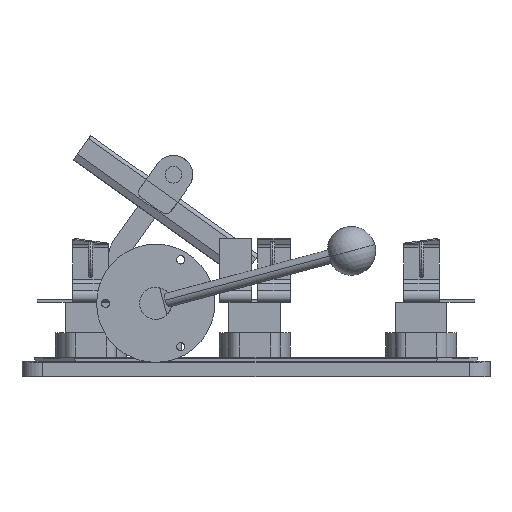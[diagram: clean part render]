
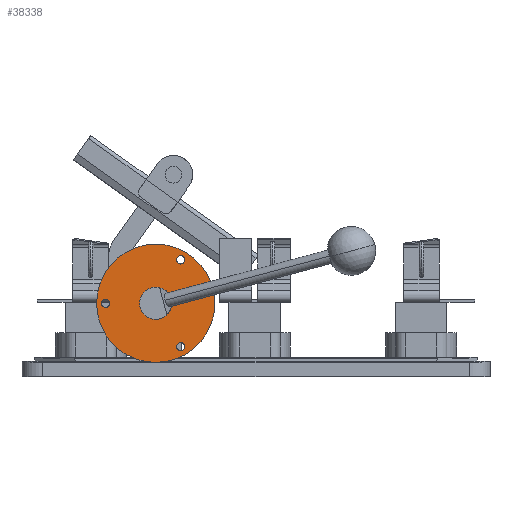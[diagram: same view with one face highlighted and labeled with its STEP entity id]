
A CAD part, left-side view. The second image highlights one B-rep face of the part: STEP entity #38338.
In plain terms, the highlighted planar face has unit normal (-1, 0, 0).
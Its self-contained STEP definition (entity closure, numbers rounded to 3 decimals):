
#15 = DIRECTION ( 'NONE',  ( -1., 0., 0. ) ) ;
#235 = ORIENTED_EDGE ( 'NONE', *, *, #48570, .F. ) ;
#430 = VERTEX_POINT ( 'NONE', #45603 ) ;
#1410 = ORIENTED_EDGE ( 'NONE', *, *, #15008, .F. ) ;
#1528 = DIRECTION ( 'NONE',  ( 0., 0., 1. ) ) ;
#2846 = VERTEX_POINT ( 'NONE', #14081 ) ;
#3075 = DIRECTION ( 'NONE',  ( 1., 0., 0. ) ) ;
#3256 = VERTEX_POINT ( 'NONE', #21446 ) ;
#3258 = CIRCLE ( 'NONE', #24570, 3.25 ) ;
#3695 = AXIS2_PLACEMENT_3D ( 'NONE', #4652, #35455, #24061 ) ;
#4652 = CARTESIAN_POINT ( 'NONE',  ( -199., 39., 42. ) ) ;
#4670 = ORIENTED_EDGE ( 'NONE', *, *, #5096, .T. ) ;
#4988 = CARTESIAN_POINT ( 'NONE',  ( -199., 0., 42. ) ) ;
#5096 = EDGE_CURVE ( 'NONE', #17063, #46205, #7573, .T. ) ;
#7279 = AXIS2_PLACEMENT_3D ( 'NONE', #31989, #36277, #24566 ) ;
#7402 = CARTESIAN_POINT ( 'NONE',  ( -199., 0., 42. ) ) ;
#7573 = CIRCLE ( 'NONE', #30477, 46. ) ;
#9375 = ORIENTED_EDGE ( 'NONE', *, *, #28336, .F. ) ;
#9589 = AXIS2_PLACEMENT_3D ( 'NONE', #7402, #3075, #48371 ) ;
#9854 = CIRCLE ( 'NONE', #43885, 3.25 ) ;
#10783 = CARTESIAN_POINT ( 'NONE',  ( -199., -19.5, 11.475 ) ) ;
#10847 = FACE_BOUND ( 'NONE', #31324, .T. ) ;
#10854 = EDGE_CURVE ( 'NONE', #34654, #11419, #29064, .T. ) ;
#10948 = DIRECTION ( 'NONE',  ( 0., 0., 1. ) ) ;
#11419 = VERTEX_POINT ( 'NONE', #10783 ) ;
#11424 = CARTESIAN_POINT ( 'NONE',  ( -199., 0., 42. ) ) ;
#11636 = ORIENTED_EDGE ( 'NONE', *, *, #27762, .F. ) ;
#11741 = DIRECTION ( 'NONE',  ( 0., 0., 1. ) ) ;
#12599 = EDGE_LOOP ( 'NONE', ( #46723, #41610 ) ) ;
#12731 = EDGE_LOOP ( 'NONE', ( #14140, #45077 ) ) ;
#12764 = DIRECTION ( 'NONE',  ( -1., 0., 0. ) ) ;
#12899 = DIRECTION ( 'NONE',  ( -1., 0., 0. ) ) ;
#13864 = AXIS2_PLACEMENT_3D ( 'NONE', #39193, #12764, #39022 ) ;
#13941 = EDGE_CURVE ( 'NONE', #11419, #34654, #16023, .T. ) ;
#14081 = CARTESIAN_POINT ( 'NONE',  ( -199., -19.5, 72.525 ) ) ;
#14140 = ORIENTED_EDGE ( 'NONE', *, *, #27692, .T. ) ;
#15008 = EDGE_CURVE ( 'NONE', #37784, #28066, #42386, .T. ) ;
#15484 = DIRECTION ( 'NONE',  ( -1., 0., 0. ) ) ;
#16023 = CIRCLE ( 'NONE', #44988, 3.25 ) ;
#16164 = DIRECTION ( 'NONE',  ( 0., 0., 1. ) ) ;
#17063 = VERTEX_POINT ( 'NONE', #47830 ) ;
#17164 = DIRECTION ( 'NONE',  ( -1., 0., 0. ) ) ;
#19639 = FACE_BOUND ( 'NONE', #12599, .T. ) ;
#21446 = CARTESIAN_POINT ( 'NONE',  ( -199., -19.5, 79.025 ) ) ;
#21760 = PLANE ( 'NONE',  #48529 ) ;
#24061 = DIRECTION ( 'NONE',  ( 0., 0., 1. ) ) ;
#24129 = DIRECTION ( 'NONE',  ( 0., 0., 1. ) ) ;
#24566 = DIRECTION ( 'NONE',  ( 0., 0., 1. ) ) ;
#24570 = AXIS2_PLACEMENT_3D ( 'NONE', #45733, #34684, #46052 ) ;
#25024 = CARTESIAN_POINT ( 'NONE',  ( -199., 0., 54.5 ) ) ;
#25835 = CARTESIAN_POINT ( 'NONE',  ( -199., 0., 42. ) ) ;
#26779 = EDGE_CURVE ( 'NONE', #46205, #17063, #34800, .T. ) ;
#27692 = EDGE_CURVE ( 'NONE', #430, #29403, #45254, .T. ) ;
#27762 = EDGE_CURVE ( 'NONE', #3256, #2846, #36423, .T. ) ;
#27769 = DIRECTION ( 'NONE',  ( -1., 0., 0. ) ) ;
#27961 = CIRCLE ( 'NONE', #9589, 12.5 ) ;
#28066 = VERTEX_POINT ( 'NONE', #40066 ) ;
#28336 = EDGE_CURVE ( 'NONE', #28066, #37784, #9854, .T. ) ;
#29064 = CIRCLE ( 'NONE', #13864, 3.25 ) ;
#29087 = FACE_OUTER_BOUND ( 'NONE', #30833, .T. ) ;
#29191 = CARTESIAN_POINT ( 'NONE',  ( -199., -19.5, 4.975 ) ) ;
#29403 = VERTEX_POINT ( 'NONE', #25024 ) ;
#30477 = AXIS2_PLACEMENT_3D ( 'NONE', #25835, #15, #10948 ) ;
#30750 = EDGE_LOOP ( 'NONE', ( #11636, #235 ) ) ;
#30833 = EDGE_LOOP ( 'NONE', ( #47419, #4670 ) ) ;
#31324 = EDGE_LOOP ( 'NONE', ( #9375, #1410 ) ) ;
#31989 = CARTESIAN_POINT ( 'NONE',  ( -199., -19.5, 75.775 ) ) ;
#32857 = CARTESIAN_POINT ( 'NONE',  ( -199., 0., 88. ) ) ;
#33056 = AXIS2_PLACEMENT_3D ( 'NONE', #46720, #27769, #24129 ) ;
#33808 = CARTESIAN_POINT ( 'NONE',  ( -199., 39., 38.75 ) ) ;
#34654 = VERTEX_POINT ( 'NONE', #29191 ) ;
#34684 = DIRECTION ( 'NONE',  ( -1., 0., 0. ) ) ;
#34734 = CARTESIAN_POINT ( 'NONE',  ( -199., -19.5, 8.225 ) ) ;
#34800 = CIRCLE ( 'NONE', #33056, 46. ) ;
#34976 = DIRECTION ( 'NONE',  ( 1., 0., 0. ) ) ;
#35455 = DIRECTION ( 'NONE',  ( -1., 0., 0. ) ) ;
#36277 = DIRECTION ( 'NONE',  ( -1., 0., 0. ) ) ;
#36423 = CIRCLE ( 'NONE', #7279, 3.25 ) ;
#36607 = AXIS2_PLACEMENT_3D ( 'NONE', #4988, #34976, #1528 ) ;
#37784 = VERTEX_POINT ( 'NONE', #33808 ) ;
#38338 = ADVANCED_FACE ( 'NONE', ( #10847, #43185, #19639, #41444, #29087 ), #21760, .T. ) ;
#39022 = DIRECTION ( 'NONE',  ( 0., 0., 1. ) ) ;
#39193 = CARTESIAN_POINT ( 'NONE',  ( -199., -19.5, 8.225 ) ) ;
#39532 = DIRECTION ( 'NONE',  ( 0., 0., 1. ) ) ;
#39698 = CARTESIAN_POINT ( 'NONE',  ( -199., 39., 42. ) ) ;
#40066 = CARTESIAN_POINT ( 'NONE',  ( -199., 39., 45.25 ) ) ;
#41444 = FACE_BOUND ( 'NONE', #12731, .T. ) ;
#41610 = ORIENTED_EDGE ( 'NONE', *, *, #10854, .F. ) ;
#42386 = CIRCLE ( 'NONE', #3695, 3.25 ) ;
#43185 = FACE_BOUND ( 'NONE', #30750, .T. ) ;
#43885 = AXIS2_PLACEMENT_3D ( 'NONE', #39698, #17164, #39532 ) ;
#44547 = EDGE_CURVE ( 'NONE', #29403, #430, #27961, .T. ) ;
#44988 = AXIS2_PLACEMENT_3D ( 'NONE', #34734, #12899, #16164 ) ;
#45077 = ORIENTED_EDGE ( 'NONE', *, *, #44547, .T. ) ;
#45254 = CIRCLE ( 'NONE', #36607, 12.5 ) ;
#45603 = CARTESIAN_POINT ( 'NONE',  ( -199., 0., 29.5 ) ) ;
#45733 = CARTESIAN_POINT ( 'NONE',  ( -199., -19.5, 75.775 ) ) ;
#46052 = DIRECTION ( 'NONE',  ( 0., 0., 1. ) ) ;
#46205 = VERTEX_POINT ( 'NONE', #32857 ) ;
#46720 = CARTESIAN_POINT ( 'NONE',  ( -199., 0., 42. ) ) ;
#46723 = ORIENTED_EDGE ( 'NONE', *, *, #13941, .F. ) ;
#47419 = ORIENTED_EDGE ( 'NONE', *, *, #26779, .T. ) ;
#47830 = CARTESIAN_POINT ( 'NONE',  ( -199., 0., -4. ) ) ;
#48371 = DIRECTION ( 'NONE',  ( 0., 0., 1. ) ) ;
#48529 = AXIS2_PLACEMENT_3D ( 'NONE', #11424, #15484, #11741 ) ;
#48570 = EDGE_CURVE ( 'NONE', #2846, #3256, #3258, .T. ) ;
